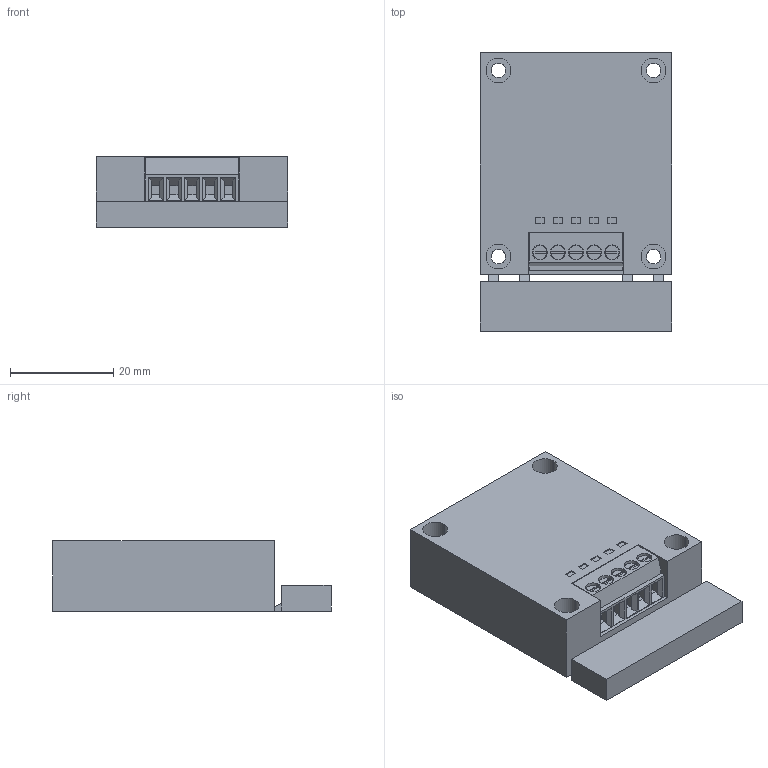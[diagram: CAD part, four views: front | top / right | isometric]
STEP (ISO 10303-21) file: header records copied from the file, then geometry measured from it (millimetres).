
FILE_DESCRIPTION (( 'STEP AP214' ), '1' );
FILE_NAME ('afpx-com.step', '2009-08-28T01:49:29', ( '' ), ( 'PanasonicElectricWorks' ), '', '', '' );
FILE_SCHEMA (( 'AUTOMOTIVE_DESIGN' ));
Length unit declared in the file: millimetre
Products named in the file (1): afpx-com
Bounding box: 37 x 53.8 x 13.6 mm (x, y, z)
Volume: 21109 mm3; surface area: 7593.2 mm2
Topology: 2 solids, 2 shells, 188 faces, 474 edges, 316 vertices
Faces by surface type: plane 152, cylinder 36
Entity records: 7726 total; most frequent: CARTESIAN_POINT 979, ORIENTED_EDGE 948, DIRECTION 944, EDGE_CURVE 474, VECTOR 382, LINE 382, VERTEX_POINT 316, AXIS2_PLACEMENT_3D 281
